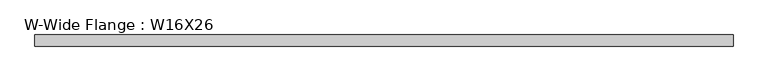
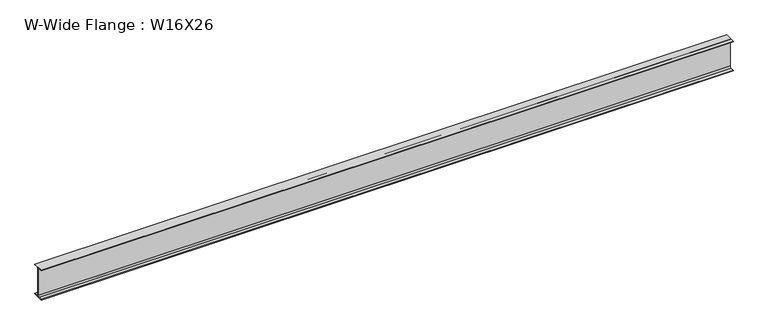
"""IFC4 building model written with IfcOpenShell, lengths in millimetres: beam geometry, W-Wide Flange : W16X26."""

from ifc_helpers import new_model, si_unit, point, frame, frame_2d, origin, place, context, project, spatial, polyline, circle_curve, trimmed, segment, composite_curve, outline, extrude, source, transform, mapped, element, save


def w_wide_flange_w16x26_0fd30d8b(model_context):
    return source(origin(), model_context, "Body", "SweptSolid", [
        extrude(outline(composite_curve([segment(polyline([(69.85, -190.5496094), (69.85, -199.2808594), (-69.85, -199.2808594), (-69.85, -190.5496094), (-21.43125, -190.5496094)]), True, "CONTINUOUS"), segment(trimmed(circle_curve(frame_2d((-21.43125, -172.2933594)), 18.25625), [point((-21.43125, -190.5496094))], [point((-3.175, -172.2933594))], True, "CARTESIAN"), True, "CONTINUOUS"), segment(polyline([(-3.175, -172.2933594), (-3.175, 172.2933594)]), True, "CONTINUOUS"), segment(trimmed(circle_curve(frame_2d((-21.43125, 172.2933594)), 18.25625), [point((-3.175, 172.2933594))], [point((-21.43125, 190.5496094))], True, "CARTESIAN"), True, "CONTINUOUS"), segment(polyline([(-21.43125, 190.5496094), (-69.85, 190.5496094), (-69.85, 199.2808594), (69.85, 199.2808594), (69.85, 190.5496094), (21.43125, 190.5496094)]), True, "CONTINUOUS"), segment(trimmed(circle_curve(frame_2d((21.43125, 172.2933594)), 18.25625), [point((21.43125, 190.5496094))], [point((3.175, 172.2933594))], True, "CARTESIAN"), True, "CONTINUOUS"), segment(polyline([(3.175, 172.2933594), (3.175, -172.2933594)]), True, "CONTINUOUS"), segment(trimmed(circle_curve(frame_2d((21.43125, -172.2933594)), 18.25625), [point((3.175, -172.2933594))], [point((21.43125, -190.5496094))], True, "CARTESIAN"), True, "CONTINUOUS"), segment(polyline([(21.43125, -190.5496094), (69.85, -190.5496094)]), True, "CONTINUOUS")], self_intersect=False)), frame((-4385.8160156, 0.0, 0.0), z_axis=(1.0, 0.0, 0.0), x_axis=(0.0, 1.0, 0.0)), (0.0, 0.0, 1.0), 8771.6320312),
    ])


if __name__ == "__main__":
    model = new_model("IFC4")
    model_context = context("Model", 3, world=origin())
    ifc_project = project(units=[si_unit("LENGTHUNIT", "METRE", prefix="MILLI")], contexts=[model_context])
    site = spatial("IfcSite", under=ifc_project)
    building = spatial("IfcBuilding", under=site)
    placement = place(None, origin())
    w_wide_flange_w16x26_shape = w_wide_flange_w16x26_0fd30d8b(model_context)
    element("IfcBeam", 1, ObjectType="W-Wide Flange : W16X26", at=placement, inside=building, context=model_context, shape_type="MappedRepresentation", body=[
        mapped(w_wide_flange_w16x26_shape, transform((0.0, 0.0, 0.0), x_axis=(1.0, 0.0, 0.0), y_axis=(0.0, 1.0, 0.0), z_axis=(0.0, 0.0, 1.0))),
    ])
    save(model, "model.ifc")
